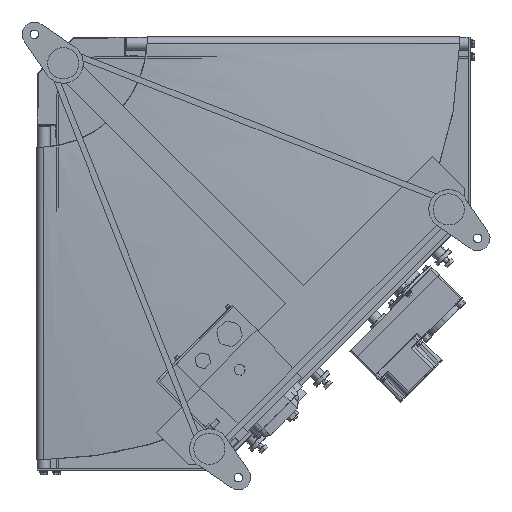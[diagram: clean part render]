
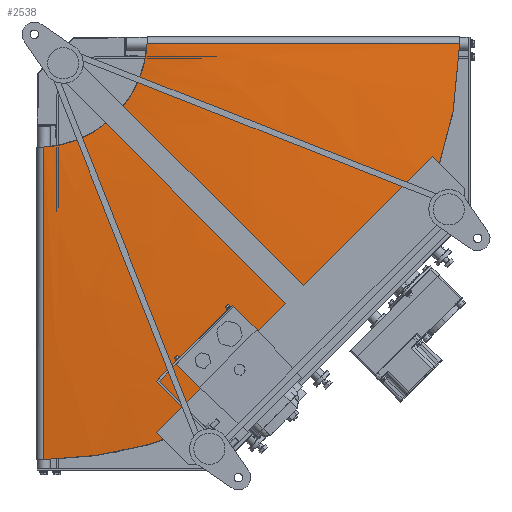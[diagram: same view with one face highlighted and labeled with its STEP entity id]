
A CAD part, front view. The second image highlights one B-rep face of the part: STEP entity #2538.
In plain terms, the highlighted free-form (B-spline) face has degree [3, 3] with [6, 4] control points.
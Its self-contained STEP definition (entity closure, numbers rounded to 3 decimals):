
#2538=ADVANCED_FACE('',(#5161),#5160,.F.);
#5160=( BOUNDED_SURFACE() B_SPLINE_SURFACE( 3,3,((#19471,#19472,#19473,#19474),(#19475,#19476,#19477,#19478),(#19479,#19480,#19481,#19482),(#19483,#19484,#19485,#19486),(#19487,#19488,#19489,#19490),(#19491,#19492,#19493,#19494)), .UNSPECIFIED.,.F.,.F.,.F.) B_SPLINE_SURFACE_WITH_KNOTS((4,2,4),(4,4),(-0.009,0.5,1.009),(-0.079,1.079), .UNSPECIFIED. ) GEOMETRIC_REPRESENTATION_ITEM() RATIONAL_B_SPLINE_SURFACE(((1.,1.,1.,1.),(1.,1.,1.,1.),(1.,1.,1.,1.),(1.,1.,1.,1.),(1.,1.,1.,1.),(1.,1.,1.,1.))) REPRESENTATION_ITEM('') SURFACE() );
#5161=FACE_OUTER_BOUND('',#19495,.T.);
#19471=CARTESIAN_POINT('',(687.457,-18.164,-0.419));
#19472=CARTESIAN_POINT('',(502.087,-18.714,-3.045));
#19473=CARTESIAN_POINT('',(316.718,-19.263,-5.671));
#19474=CARTESIAN_POINT('',(131.348,-19.813,-8.296));
#19475=CARTESIAN_POINT('',(686.764,-47.312,-180.965));
#19476=CARTESIAN_POINT('',(500.949,-37.432,-134.115));
#19477=CARTESIAN_POINT('',(315.135,-27.551,-87.264));
#19478=CARTESIAN_POINT('',(129.321,-17.671,-40.414));
#19479=CARTESIAN_POINT('',(613.513,-63.694,-355.32));
#19480=CARTESIAN_POINT('',(447.587,-47.951,-260.393));
#19481=CARTESIAN_POINT('',(281.66,-32.209,-165.466));
#19482=CARTESIAN_POINT('',(115.734,-16.467,-70.538));
#19483=CARTESIAN_POINT('',(355.32,-63.694,-613.513));
#19484=CARTESIAN_POINT('',(260.393,-47.951,-447.587));
#19485=CARTESIAN_POINT('',(165.466,-32.209,-281.66));
#19486=CARTESIAN_POINT('',(70.538,-16.467,-115.734));
#19487=CARTESIAN_POINT('',(180.965,-47.312,-686.764));
#19488=CARTESIAN_POINT('',(134.115,-37.432,-500.949));
#19489=CARTESIAN_POINT('',(87.264,-27.551,-315.135));
#19490=CARTESIAN_POINT('',(40.414,-17.671,-129.321));
#19491=CARTESIAN_POINT('',(0.419,-18.164,-687.457));
#19492=CARTESIAN_POINT('',(3.045,-18.714,-502.087));
#19493=CARTESIAN_POINT('',(5.671,-19.263,-316.718));
#19494=CARTESIAN_POINT('',(8.296,-19.813,-131.348));
#19495=EDGE_LOOP('',(#28643,#28644,#28645,#28646));
#28643=ORIENTED_EDGE('',*,*,#34721,.F.);
#28644=ORIENTED_EDGE('',*,*,#34729,.T.);
#28645=ORIENTED_EDGE('',*,*,#34714,.T.);
#28646=ORIENTED_EDGE('',*,*,#34735,.F.);
#34714=EDGE_CURVE('',#39152,#39145,#39153,.T.);
#34721=EDGE_CURVE('',#39192,#39185,#39199,.T.);
#34729=EDGE_CURVE('',#39192,#39152,#39252,.T.);
#34735=EDGE_CURVE('',#39185,#39145,#39292,.T.);
#39145=VERTEX_POINT('',#60572);
#39152=VERTEX_POINT('',#60575);
#39153=(BOUNDED_CURVE() B_SPLINE_CURVE(3,(#60576,#60577,#60578,#60579,#60580,#60581,#60582,#60583,#60584,#60585,#60586),.UNSPECIFIED.,.F.,.F.) B_SPLINE_CURVE_WITH_KNOTS((4,1,1,1,1,1,1,1,4),(0.,0.134,0.224,0.334,0.5,0.666,0.776,0.866,1.),.UNSPECIFIED.) CURVE() GEOMETRIC_REPRESENTATION_ITEM() RATIONAL_B_SPLINE_CURVE((1.,1.,1.,1.,1.,1.,1.,1.,1.,1.,1.)) REPRESENTATION_ITEM('') );
#39185=VERTEX_POINT('',#60693);
#39192=VERTEX_POINT('',#60699);
#39199=(BOUNDED_CURVE() B_SPLINE_CURVE(3,(#60704,#60705,#60706,#60707,#60708,#60709,#60710,#60711,#60712,#60713,#60714,#60715,#60716,#60717,#60718,#60719,#60720,#60721,#60722,#60723,#60724,#60725,#60726,#60727,#60728,#60729,#60730,#60731,#60732,#60733,#60734,#60735,#60736,#60737),.UNSPECIFIED.,.F.,.F.) B_SPLINE_CURVE_WITH_KNOTS((4,2,2,2,2,2,2,2,2,2,2,2,2,2,2,2,4),(0.,0.063,0.125,0.188,0.25,0.313,0.375,0.438,0.5,0.563,0.625,0.688,0.75,0.813,0.875,0.938,1.),.UNSPECIFIED.) CURVE() GEOMETRIC_REPRESENTATION_ITEM() RATIONAL_B_SPLINE_CURVE((1.,1.,1.,1.,1.,1.,1.,1.,1.,1.,1.,1.,1.,1.,1.,1.,1.,1.,1.,1.,1.,1.,1.,1.,1.,1.,1.,1.,1.,1.,1.,1.,1.,1.)) REPRESENTATION_ITEM('') );
#39252=LINE('',#60896,#60897);
#39292=LINE('',#61021,#61022);
#60572=CARTESIAN_POINT('',(10.,-19.7,-168.704));
#60575=CARTESIAN_POINT('',(168.704,-19.7,-10.));
#60576=CARTESIAN_POINT('',(168.704,-19.7,-10.));
#60577=CARTESIAN_POINT('',(168.056,-19.691,-20.952));
#60578=CARTESIAN_POINT('',(165.188,-19.679,-39.108));
#60579=CARTESIAN_POINT('',(156.616,-19.664,-65.058));
#60580=CARTESIAN_POINT('',(143.204,-19.653,-91.899));
#60581=CARTESIAN_POINT('',(120.677,-19.647,-120.677));
#60582=CARTESIAN_POINT('',(91.899,-19.653,-143.204));
#60583=CARTESIAN_POINT('',(65.058,-19.664,-156.616));
#60584=CARTESIAN_POINT('',(39.108,-19.679,-165.188));
#60585=CARTESIAN_POINT('',(20.952,-19.691,-168.056));
#60586=CARTESIAN_POINT('',(10.,-19.7,-168.704));
#60693=CARTESIAN_POINT('',(10.,-19.7,-648.923));
#60699=CARTESIAN_POINT('',(648.923,-19.7,-10.));
#60704=CARTESIAN_POINT('',(648.923,-19.7,-10.));
#60705=CARTESIAN_POINT('',(648.602,-22.927,-30.66));
#60706=CARTESIAN_POINT('',(647.299,-25.994,-51.313));
#60707=CARTESIAN_POINT('',(642.714,-31.783,-92.46));
#60708=CARTESIAN_POINT('',(639.429,-34.506,-112.957));
#60709=CARTESIAN_POINT('',(630.898,-39.583,-153.604));
#60710=CARTESIAN_POINT('',(625.653,-41.937,-173.75));
#60711=CARTESIAN_POINT('',(613.238,-46.251,-213.481));
#60712=CARTESIAN_POINT('',(606.066,-48.209,-233.064));
#60713=CARTESIAN_POINT('',(589.86,-51.712,-271.474));
#60714=CARTESIAN_POINT('',(580.828,-53.256,-290.301));
#60715=CARTESIAN_POINT('',(560.98,-55.915,-327.015));
#60716=CARTESIAN_POINT('',(550.164,-57.03,-344.9));
#60717=CARTESIAN_POINT('',(526.848,-58.818,-379.564));
#60718=CARTESIAN_POINT('',(514.345,-59.491,-396.341));
#60719=CARTESIAN_POINT('',(487.769,-60.39,-428.623));
#60720=CARTESIAN_POINT('',(473.697,-60.615,-444.128));
#60721=CARTESIAN_POINT('',(444.12,-60.615,-473.704));
#60722=CARTESIAN_POINT('',(428.614,-60.39,-487.776));
#60723=CARTESIAN_POINT('',(396.332,-59.491,-514.351));
#60724=CARTESIAN_POINT('',(379.555,-58.817,-526.854));
#60725=CARTESIAN_POINT('',(344.893,-57.029,-550.169));
#60726=CARTESIAN_POINT('',(327.008,-55.915,-560.984));
#60727=CARTESIAN_POINT('',(290.293,-53.256,-580.831));
#60728=CARTESIAN_POINT('',(271.463,-51.711,-589.864));
#60729=CARTESIAN_POINT('',(233.05,-48.207,-606.07));
#60730=CARTESIAN_POINT('',(213.468,-46.249,-613.242));
#60731=CARTESIAN_POINT('',(173.743,-41.937,-625.656));
#60732=CARTESIAN_POINT('',(153.602,-39.583,-630.9));
#60733=CARTESIAN_POINT('',(112.964,-34.507,-639.429));
#60734=CARTESIAN_POINT('',(92.469,-31.784,-642.713));
#60735=CARTESIAN_POINT('',(51.319,-25.994,-647.298));
#60736=CARTESIAN_POINT('',(30.66,-22.927,-648.603));
#60737=CARTESIAN_POINT('',(10.,-19.7,-648.923));
#60896=CARTESIAN_POINT('',(648.923,-19.7,-10.));
#60897=VECTOR('',#60898,480.219);
#60898=DIRECTION('',(-1.,0.,0.));
#61021=CARTESIAN_POINT('',(10.,-19.7,-648.923));
#61022=VECTOR('',#61023,480.219);
#61023=DIRECTION('',(0.,0.,1.));
